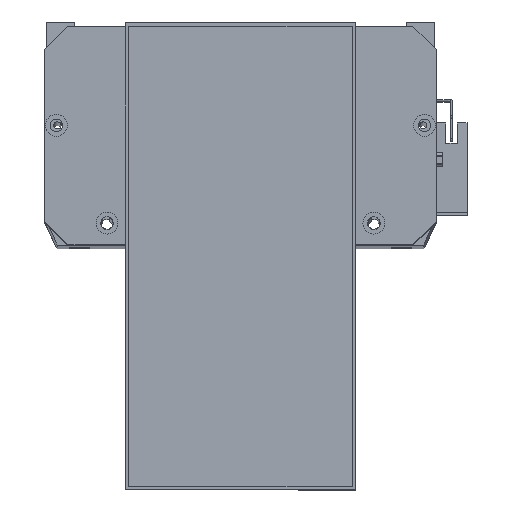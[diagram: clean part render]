
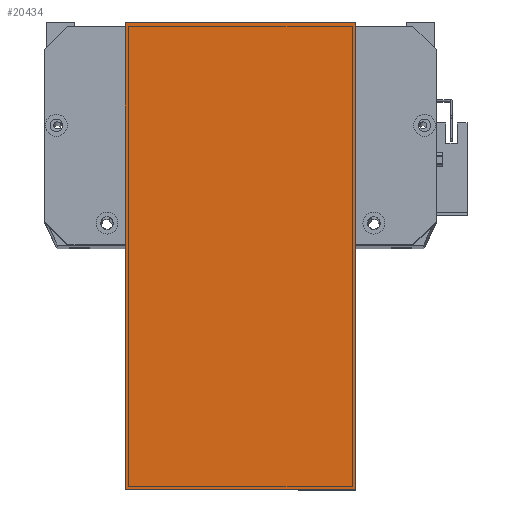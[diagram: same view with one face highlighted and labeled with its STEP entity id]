
A CAD part, top view. The second image highlights one B-rep face of the part: STEP entity #20434.
In plain terms, the highlighted planar face has unit normal (0, 0, 1) as drawn and (0, 0, -1) by its records, which use the part's own axes.
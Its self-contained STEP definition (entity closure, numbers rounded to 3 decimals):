
#668 = VERTEX_POINT ( 'NONE', #10885 ) ;
#829 = LINE ( 'NONE', #17376, #11260 ) ;
#3699 = EDGE_CURVE ( 'NONE', #27636, #668, #23973, .T. ) ;
#5481 = CARTESIAN_POINT ( 'NONE',  ( 0., 119.5, 0. ) ) ;
#6919 = FACE_OUTER_BOUND ( 'NONE', #25989, .T. ) ;
#7093 = EDGE_CURVE ( 'NONE', #27418, #21132, #15764, .T. ) ;
#7556 = CARTESIAN_POINT ( 'NONE',  ( -12., 19.5, 0. ) ) ;
#7779 = ORIENTED_EDGE ( 'NONE', *, *, #26498, .F. ) ;
#9207 = VECTOR ( 'NONE', #17888, 1000. ) ;
#9340 = CARTESIAN_POINT ( 'NONE',  ( 203., 0., 0. ) ) ;
#10423 = EDGE_CURVE ( 'NONE', #668, #21132, #25279, .T. ) ;
#10591 = CARTESIAN_POINT ( 'NONE',  ( 0., 0., 0. ) ) ;
#10885 = CARTESIAN_POINT ( 'NONE',  ( 203., 19.5, 0. ) ) ;
#11260 = VECTOR ( 'NONE', #12931, 1000. ) ;
#12196 = VECTOR ( 'NONE', #23048, 1000. ) ;
#12794 = DIRECTION ( 'NONE',  ( -1., 0., 0. ) ) ;
#12931 = DIRECTION ( 'NONE',  ( 0., -1., 0. ) ) ;
#13146 = CARTESIAN_POINT ( 'NONE',  ( 203., 119.5, 0. ) ) ;
#13495 = VECTOR ( 'NONE', #24904, 1000. ) ;
#15764 = LINE ( 'NONE', #26708, #9207 ) ;
#17260 = CARTESIAN_POINT ( 'NONE',  ( 0., 19.5, 0. ) ) ;
#17376 = CARTESIAN_POINT ( 'NONE',  ( 0., 0., 0. ) ) ;
#17888 = DIRECTION ( 'NONE',  ( 1., 0., 0. ) ) ;
#18054 = AXIS2_PLACEMENT_3D ( 'NONE', #10591, #26043, #12794 ) ;
#20434 = ADVANCED_FACE ( 'NONE', ( #6919 ), #21606, .T. ) ;
#21132 = VERTEX_POINT ( 'NONE', #13146 ) ;
#21606 = PLANE ( 'NONE',  #18054 ) ;
#21776 = ORIENTED_EDGE ( 'NONE', *, *, #7093, .T. ) ;
#23048 = DIRECTION ( 'NONE',  ( 1., 0., 0. ) ) ;
#23973 = LINE ( 'NONE', #7556, #12196 ) ;
#24231 = ORIENTED_EDGE ( 'NONE', *, *, #10423, .F. ) ;
#24904 = DIRECTION ( 'NONE',  ( 0., 1., 0. ) ) ;
#25279 = LINE ( 'NONE', #9340, #13495 ) ;
#25989 = EDGE_LOOP ( 'NONE', ( #27797, #7779, #21776, #24231 ) ) ;
#26043 = DIRECTION ( 'NONE',  ( 0., 0., -1. ) ) ;
#26498 = EDGE_CURVE ( 'NONE', #27418, #27636, #829, .T. ) ;
#26708 = CARTESIAN_POINT ( 'NONE',  ( -12., 119.5, 0. ) ) ;
#27418 = VERTEX_POINT ( 'NONE', #5481 ) ;
#27636 = VERTEX_POINT ( 'NONE', #17260 ) ;
#27797 = ORIENTED_EDGE ( 'NONE', *, *, #3699, .F. ) ;
